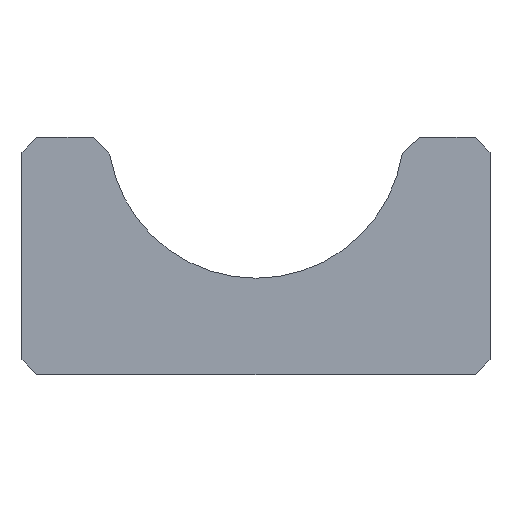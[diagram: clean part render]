
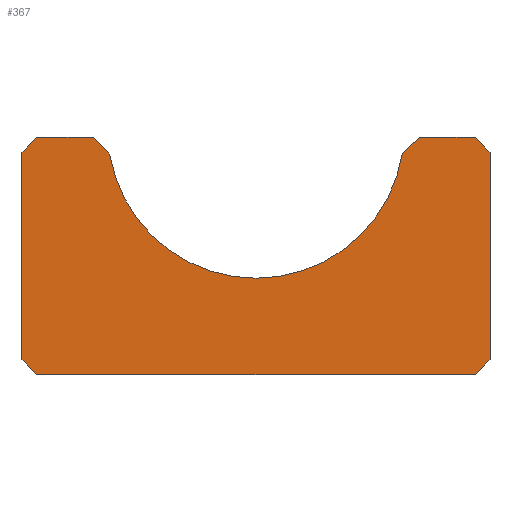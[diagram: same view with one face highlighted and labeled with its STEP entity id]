
A CAD part, front view. The second image highlights one B-rep face of the part: STEP entity #367.
In plain terms, the highlighted planar face has unit normal (0, -1, 0).
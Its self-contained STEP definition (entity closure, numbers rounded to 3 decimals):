
#3 = VECTOR ( 'NONE', #272, 1000. ) ;
#4 = CARTESIAN_POINT ( 'NONE',  ( 4.939, -10., -0.526 ) ) ;
#7 = VERTEX_POINT ( 'NONE', #421 ) ;
#8 = DIRECTION ( 'NONE',  ( -0.707, 0., 0.707 ) ) ;
#10 = DIRECTION ( 'NONE',  ( 1., 0., 0. ) ) ;
#11 = LINE ( 'NONE', #137, #494 ) ;
#12 = DIRECTION ( 'NONE',  ( -0.742, 0., -0.671 ) ) ;
#18 = LINE ( 'NONE', #484, #242 ) ;
#28 = VERTEX_POINT ( 'NONE', #511 ) ;
#33 = CARTESIAN_POINT ( 'NONE',  ( -4.934, -10., -0.56 ) ) ;
#37 = DIRECTION ( 'NONE',  ( 0.707, 0., 0.707 ) ) ;
#39 = CARTESIAN_POINT ( 'NONE',  ( -7.894, -10., -8. ) ) ;
#48 = VERTEX_POINT ( 'NONE', #289 ) ;
#49 = DIRECTION ( 'NONE',  ( 0., -1., 0. ) ) ;
#51 = EDGE_CURVE ( 'NONE', #7, #101, #176, .T. ) ;
#61 = VERTEX_POINT ( 'NONE', #335 ) ;
#63 = EDGE_CURVE ( 'NONE', #65, #28, #76, .T. ) ;
#65 = VERTEX_POINT ( 'NONE', #333 ) ;
#73 = EDGE_CURVE ( 'NONE', #115, #28, #11, .T. ) ;
#76 = LINE ( 'NONE', #39, #535 ) ;
#79 = CARTESIAN_POINT ( 'NONE',  ( 7.394, -10., -8. ) ) ;
#82 = CIRCLE ( 'NONE', #398, 5. ) ;
#85 = CARTESIAN_POINT ( 'NONE',  ( 0., -10., 0.25 ) ) ;
#86 = CARTESIAN_POINT ( 'NONE',  ( -7.394, -10., 0. ) ) ;
#88 = DIRECTION ( 'NONE',  ( -1., 0., 0. ) ) ;
#90 = DIRECTION ( 'NONE',  ( 0., 0., 1. ) ) ;
#92 = LINE ( 'NONE', #79, #458 ) ;
#95 = VERTEX_POINT ( 'NONE', #373 ) ;
#101 = VERTEX_POINT ( 'NONE', #4 ) ;
#102 = EDGE_CURVE ( 'NONE', #154, #103, #417, .T. ) ;
#103 = VERTEX_POINT ( 'NONE', #194 ) ;
#115 = VERTEX_POINT ( 'NONE', #489 ) ;
#116 = AXIS2_PLACEMENT_3D ( 'NONE', #85, #427, #261 ) ;
#122 = CARTESIAN_POINT ( 'NONE',  ( -7.394, -10., 0. ) ) ;
#136 = LINE ( 'NONE', #230, #298 ) ;
#137 = CARTESIAN_POINT ( 'NONE',  ( -7.894, -10., -7.5 ) ) ;
#140 = EDGE_LOOP ( 'NONE', ( #359, #300, #425, #472, #268, #314, #532, #492, #479, #177, #305, #362, #186 ) ) ;
#149 = PLANE ( 'NONE',  #116 ) ;
#154 = VERTEX_POINT ( 'NONE', #237 ) ;
#158 = EDGE_CURVE ( 'NONE', #61, #101, #136, .T. ) ;
#172 = LINE ( 'NONE', #86, #211 ) ;
#176 = CIRCLE ( 'NONE', #444, 5. ) ;
#177 = ORIENTED_EDGE ( 'NONE', *, *, #392, .F. ) ;
#186 = ORIENTED_EDGE ( 'NONE', *, *, #319, .T. ) ;
#189 = LINE ( 'NONE', #357, #412 ) ;
#194 = CARTESIAN_POINT ( 'NONE',  ( 7.394, -10., 0. ) ) ;
#211 = VECTOR ( 'NONE', #509, 1000. ) ;
#226 = EDGE_CURVE ( 'NONE', #115, #320, #315, .T. ) ;
#230 = CARTESIAN_POINT ( 'NONE',  ( 5.521, -10., 0. ) ) ;
#237 = CARTESIAN_POINT ( 'NONE',  ( 7.894, -10., -0.5 ) ) ;
#242 = VECTOR ( 'NONE', #384, 1000. ) ;
#247 = DIRECTION ( 'NONE',  ( 0.707, 0., -0.707 ) ) ;
#252 = EDGE_CURVE ( 'NONE', #470, #95, #18, .T. ) ;
#256 = VECTOR ( 'NONE', #8, 1000. ) ;
#261 = DIRECTION ( 'NONE',  ( 0., 0., 1. ) ) ;
#262 = LINE ( 'NONE', #378, #327 ) ;
#264 = FACE_OUTER_BOUND ( 'NONE', #140, .T. ) ;
#268 = ORIENTED_EDGE ( 'NONE', *, *, #449, .F. ) ;
#272 = DIRECTION ( 'NONE',  ( -0.707, 0., 0.707 ) ) ;
#289 = CARTESIAN_POINT ( 'NONE',  ( 7.894, -10., -7.5 ) ) ;
#293 = EDGE_CURVE ( 'NONE', #433, #95, #382, .T. ) ;
#298 = VECTOR ( 'NONE', #12, 1000. ) ;
#300 = ORIENTED_EDGE ( 'NONE', *, *, #73, .T. ) ;
#305 = ORIENTED_EDGE ( 'NONE', *, *, #293, .T. ) ;
#306 = CARTESIAN_POINT ( 'NONE',  ( -7.894, -10., -8. ) ) ;
#310 = CARTESIAN_POINT ( 'NONE',  ( -4.934, -10., -0.56 ) ) ;
#314 = ORIENTED_EDGE ( 'NONE', *, *, #102, .T. ) ;
#315 = LINE ( 'NONE', #306, #495 ) ;
#319 = EDGE_CURVE ( 'NONE', #470, #320, #172, .T. ) ;
#320 = VERTEX_POINT ( 'NONE', #342 ) ;
#327 = VECTOR ( 'NONE', #10, 1000. ) ;
#333 = CARTESIAN_POINT ( 'NONE',  ( 7.394, -10., -8. ) ) ;
#335 = CARTESIAN_POINT ( 'NONE',  ( 5.521, -10., 0. ) ) ;
#342 = CARTESIAN_POINT ( 'NONE',  ( -7.894, -10., -0.5 ) ) ;
#353 = EDGE_CURVE ( 'NONE', #61, #103, #262, .T. ) ;
#357 = CARTESIAN_POINT ( 'NONE',  ( 7.894, -10., 0. ) ) ;
#359 = ORIENTED_EDGE ( 'NONE', *, *, #226, .F. ) ;
#362 = ORIENTED_EDGE ( 'NONE', *, *, #252, .F. ) ;
#367 = ADVANCED_FACE ( 'NONE', ( #264 ), #149, .F. ) ;
#373 = CARTESIAN_POINT ( 'NONE',  ( -5.494, -10., 0. ) ) ;
#376 = CARTESIAN_POINT ( 'NONE',  ( 7.894, -10., -0.5 ) ) ;
#378 = CARTESIAN_POINT ( 'NONE',  ( 4.994, -10., 0. ) ) ;
#380 = CARTESIAN_POINT ( 'NONE',  ( 0., -10., 0.25 ) ) ;
#382 = LINE ( 'NONE', #310, #3 ) ;
#384 = DIRECTION ( 'NONE',  ( 1., 0., 0. ) ) ;
#392 = EDGE_CURVE ( 'NONE', #433, #7, #82, .T. ) ;
#398 = AXIS2_PLACEMENT_3D ( 'NONE', #380, #485, #423 ) ;
#412 = VECTOR ( 'NONE', #441, 1000. ) ;
#414 = CARTESIAN_POINT ( 'NONE',  ( 0., -10., 0.25 ) ) ;
#417 = LINE ( 'NONE', #376, #256 ) ;
#421 = CARTESIAN_POINT ( 'NONE',  ( 0., -10., -4.75 ) ) ;
#423 = DIRECTION ( 'NONE',  ( 0., 0., 1. ) ) ;
#425 = ORIENTED_EDGE ( 'NONE', *, *, #63, .F. ) ;
#427 = DIRECTION ( 'NONE',  ( 0., 1., 0. ) ) ;
#433 = VERTEX_POINT ( 'NONE', #33 ) ;
#441 = DIRECTION ( 'NONE',  ( 0., 0., -1. ) ) ;
#444 = AXIS2_PLACEMENT_3D ( 'NONE', #414, #49, #457 ) ;
#449 = EDGE_CURVE ( 'NONE', #154, #48, #189, .T. ) ;
#457 = DIRECTION ( 'NONE',  ( 0., 0., 1. ) ) ;
#458 = VECTOR ( 'NONE', #37, 1000. ) ;
#462 = EDGE_CURVE ( 'NONE', #65, #48, #92, .T. ) ;
#470 = VERTEX_POINT ( 'NONE', #122 ) ;
#472 = ORIENTED_EDGE ( 'NONE', *, *, #462, .T. ) ;
#479 = ORIENTED_EDGE ( 'NONE', *, *, #51, .F. ) ;
#484 = CARTESIAN_POINT ( 'NONE',  ( -7.894, -10., 0. ) ) ;
#485 = DIRECTION ( 'NONE',  ( 0., -1., 0. ) ) ;
#489 = CARTESIAN_POINT ( 'NONE',  ( -7.894, -10., -7.5 ) ) ;
#492 = ORIENTED_EDGE ( 'NONE', *, *, #158, .T. ) ;
#494 = VECTOR ( 'NONE', #247, 1000. ) ;
#495 = VECTOR ( 'NONE', #90, 1000. ) ;
#509 = DIRECTION ( 'NONE',  ( -0.707, 0., -0.707 ) ) ;
#511 = CARTESIAN_POINT ( 'NONE',  ( -7.394, -10., -8. ) ) ;
#532 = ORIENTED_EDGE ( 'NONE', *, *, #353, .F. ) ;
#535 = VECTOR ( 'NONE', #88, 1000. ) ;
